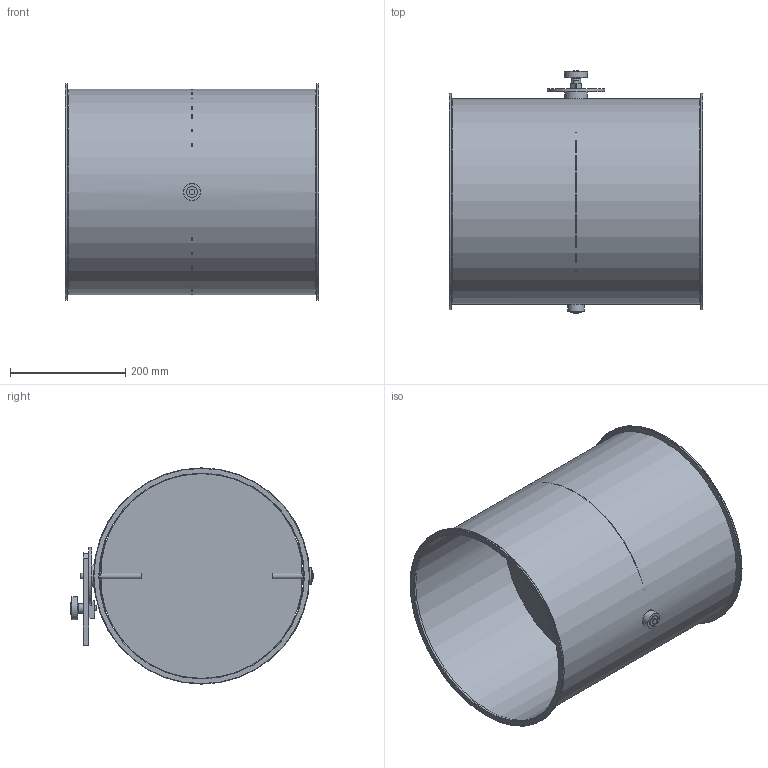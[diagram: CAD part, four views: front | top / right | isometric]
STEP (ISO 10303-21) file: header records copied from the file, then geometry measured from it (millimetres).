
FILE_DESCRIPTION(/* description */ (''),/* implementation_level */ '2;1');
FILE_NAME(/* name */ 'METU_Drosselklappe_Flansch_verzinkt_EA107-80B__355_L440_handbetaetigt.stp',/* time_stamp */ '2022-04-22T14:51:37+02:00',/* author */ (''),/* organization */ (''),/* preprocessor_version */ 'ST-DEVELOPER v11',/* originating_system */ 'SIEMENS UGS NX 6.0',/* authorisation */ '');
FILE_SCHEMA (('CONFIG_CONTROL_DESIGN'));
Length unit declared in the file: millimetre
Products named in the file (1): d.ga332Aq9am
Bounding box: 440 x 420.31 x 375 mm (x, y, z)
Volume: 717083.9 mm3; surface area: 1272151.6 mm2
Topology: 12 solids, 12 shells, 85 faces, 172 edges, 116 vertices
Faces by surface type: plane 40, cylinder 35, torus 6, sphere 2, cone 2
Full cylindrical faces by diameter (mm): 4.4 x5, 6.8 x1, 8 x1, 9 x1, 10 x5, 16.5 x1, 19 x3, 19.85 x2, 20 x2, 29 x1, 30 x2, 35 x1, 39 x1, 40 x1, 100 x1, 355 x1, 356.6 x1, 375 x2
Entity records: 2112 total; most frequent: CARTESIAN_POINT 374, DIRECTION 358, ORIENTED_EDGE 236, EDGE_LOOP 162, AXIS2_PLACEMENT_3D 158, FACE_BOUND 140, EDGE_CURVE 118, VERTEX_POINT 102
